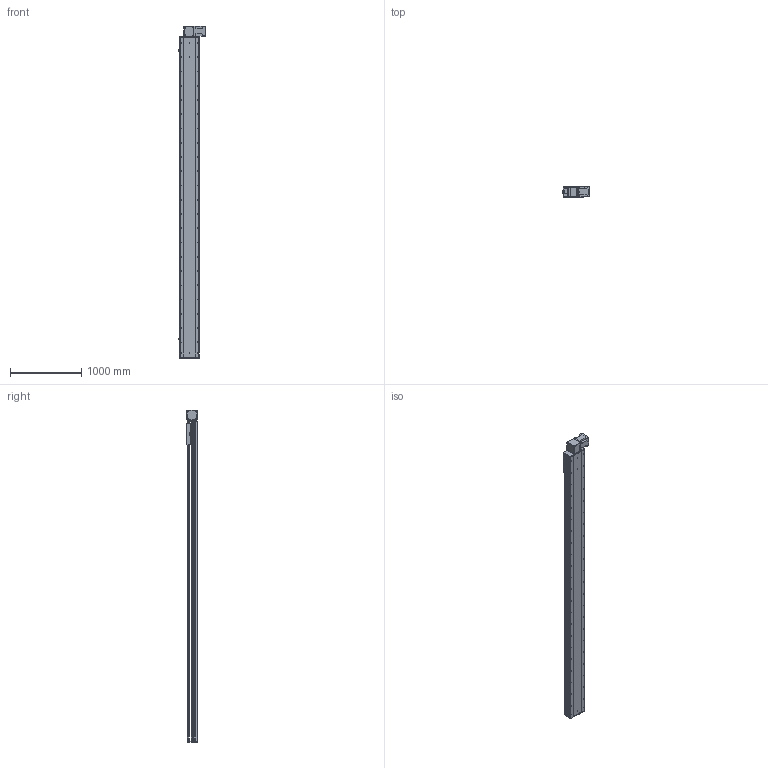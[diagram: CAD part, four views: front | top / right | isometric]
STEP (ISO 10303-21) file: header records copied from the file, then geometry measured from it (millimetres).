
FILE_DESCRIPTION (( 'STEP AP214' ), '1' );
FILE_NAME ('RTB28S-XX-4050-BL-M100-XX-C4.STEP', '2025-12-22T02:43:49', ( '' ), ( '' ), 'SwSTEP 2.0', 'SolidWorks 2018', '' );
FILE_SCHEMA (( 'AUTOMOTIVE_DESIGN' ));
Length unit declared in the file: millimetre
Products named in the file (4): RTB28S-XX-4050-BL-M100-XX-C4; RTB28S-GY-011^RTB28S-XX-XX-BL-M100-XX-C4; RTB28S-GY-008^RTB28S-XX-XX-BL-M100-XX-C4; RTB28S-GY-004^RTB28S-XX-XX-BL-M100-XX-C4
Assembly tree (3 placements, depth 2):
  RTB28S-XX-4050-BL-M100-XX-C4
    RTB28S-GY-011^RTB28S-XX-XX-BL-M100-XX-C4
    RTB28S-GY-004^RTB28S-XX-XX-BL-M100-XX-C4
    RTB28S-GY-008^RTB28S-XX-XX-BL-M100-XX-C4
Bounding box: 380.7 x 145 x 4657 mm (x, y, z)
Volume: 77647911.6 mm3; surface area: 7195290.1 mm2
Topology: 3 solids, 4 shells, 938 faces, 2538 edges, 1628 vertices
Faces by surface type: cylinder 479, plane 375, cone 80, torus 4
Entity records: 36803 total; most frequent: CARTESIAN_POINT 7252, DIRECTION 5412, ORIENTED_EDGE 5012, EDGE_CURVE 2506, AXIS2_PLACEMENT_3D 2016, VERTEX_POINT 1628, LINE 1380, VECTOR 1380
